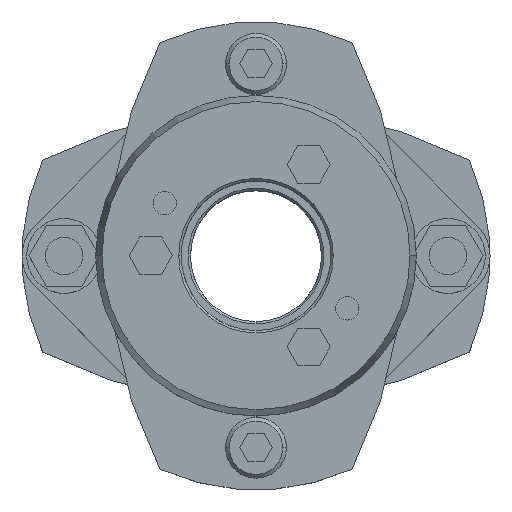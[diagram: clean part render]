
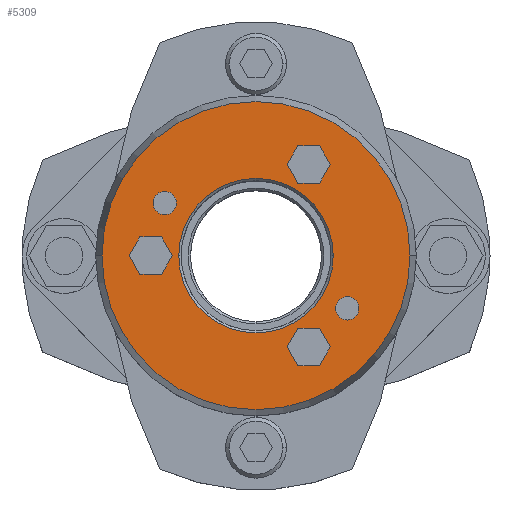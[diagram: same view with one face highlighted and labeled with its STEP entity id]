
A CAD part, top view. The second image highlights one B-rep face of the part: STEP entity #5309.
In plain terms, the highlighted planar face has unit normal (0, 0, 1).
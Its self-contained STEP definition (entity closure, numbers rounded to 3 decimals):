
#857=CARTESIAN_POINT('',(-16.5,0.,42.0));
#858=VERTEX_POINT('',#857);
#874=CARTESIAN_POINT('',(16.5,0.,42.0));
#875=VERTEX_POINT('',#874);
#882=CARTESIAN_POINT('',(0.,0.,42.0));
#883=DIRECTION('',(0.0,0.0,1.0));
#884=DIRECTION('',(-1.0,0.0,0.0));
#885=AXIS2_PLACEMENT_3D('',#882,#883,#884);
#886=CIRCLE('',#885,16.5);
#887=EDGE_CURVE('',#875,#858,#886,.T.);
#1045=CARTESIAN_POINT('',(32.91,0.,42.0));
#1046=VERTEX_POINT('',#1045);
#1053=CARTESIAN_POINT('',(-32.91,0.,42.0));
#1054=VERTEX_POINT('',#1053);
#1055=CARTESIAN_POINT('',(0.,0.,42.0));
#1056=DIRECTION('',(0.0,0.0,-1.0));
#1057=DIRECTION('',(1.0,0.0,0.0));
#1058=AXIS2_PLACEMENT_3D('',#1055,#1056,#1057);
#1059=CIRCLE('',#1058,32.91);
#1060=EDGE_CURVE('',#1046,#1054,#1059,.T.);
#1155=CARTESIAN_POINT('',(16.986,-11.25,42.0));
#1156=VERTEX_POINT('',#1155);
#1172=CARTESIAN_POINT('',(21.986,-11.25,42.0));
#1173=VERTEX_POINT('',#1172);
#1180=CARTESIAN_POINT('',(19.486,-11.25,42.0));
#1181=DIRECTION('',(0.0,0.0,-1.0));
#1182=DIRECTION('',(-1.0,0.0,0.0));
#1183=AXIS2_PLACEMENT_3D('',#1180,#1181,#1182);
#1184=CIRCLE('',#1183,2.5);
#1185=EDGE_CURVE('',#1156,#1173,#1184,.T.);
#1197=CARTESIAN_POINT('',(-21.986,11.25,42.0));
#1198=VERTEX_POINT('',#1197);
#1214=CARTESIAN_POINT('',(-16.986,11.25,42.0));
#1215=VERTEX_POINT('',#1214);
#1222=CARTESIAN_POINT('',(-19.486,11.25,42.0));
#1223=DIRECTION('',(0.0,0.0,-1.0));
#1224=DIRECTION('',(-1.0,0.0,0.0));
#1225=AXIS2_PLACEMENT_3D('',#1222,#1223,#1224);
#1226=CIRCLE('',#1225,2.5);
#1227=EDGE_CURVE('',#1198,#1215,#1226,.T.);
#4336=CARTESIAN_POINT('',(-19.486,11.25,42.0));
#4337=DIRECTION('',(0.0,0.0,-1.0));
#4338=DIRECTION('',(-1.0,0.0,0.0));
#4339=AXIS2_PLACEMENT_3D('',#4336,#4337,#4338);
#4340=CIRCLE('',#4339,2.5);
#4341=EDGE_CURVE('',#1215,#1198,#4340,.T.);
#4370=CARTESIAN_POINT('',(19.486,-11.25,42.0));
#4371=DIRECTION('',(0.0,0.0,-1.0));
#4372=DIRECTION('',(-1.0,0.0,0.0));
#4373=AXIS2_PLACEMENT_3D('',#4370,#4371,#4372);
#4374=CIRCLE('',#4373,2.5);
#4375=EDGE_CURVE('',#1173,#1156,#4374,.T.);
#4413=CARTESIAN_POINT('',(-27.119,0.,42.0));
#4414=VERTEX_POINT('',#4413);
#4421=CARTESIAN_POINT('',(-24.809,-4.,42.0));
#4422=VERTEX_POINT('',#4421);
#4423=CARTESIAN_POINT('',(-24.809,-4.,42.0));
#4424=DIRECTION('',(-0.5,0.866,0.0));
#4425=VECTOR('',#4424,4.619);
#4426=LINE('',#4423,#4425);
#4427=EDGE_CURVE('',#4422,#4414,#4426,.T.);
#4451=CARTESIAN_POINT('',(-24.809,4.,42.0));
#4452=VERTEX_POINT('',#4451);
#4459=CARTESIAN_POINT('',(-27.119,0.,42.0));
#4460=DIRECTION('',(0.5,0.866,0.0));
#4461=VECTOR('',#4460,4.619);
#4462=LINE('',#4459,#4461);
#4463=EDGE_CURVE('',#4414,#4452,#4462,.T.);
#4482=CARTESIAN_POINT('',(-20.191,4.,42.0));
#4483=VERTEX_POINT('',#4482);
#4490=CARTESIAN_POINT('',(-24.809,4.,42.0));
#4491=DIRECTION('',(1.0,0.0,0.0));
#4492=VECTOR('',#4491,4.619);
#4493=LINE('',#4490,#4492);
#4494=EDGE_CURVE('',#4452,#4483,#4493,.T.);
#4513=CARTESIAN_POINT('',(-17.881,0.,42.0));
#4514=VERTEX_POINT('',#4513);
#4521=CARTESIAN_POINT('',(-20.191,4.,42.0));
#4522=DIRECTION('',(0.5,-0.866,0.0));
#4523=VECTOR('',#4522,4.619);
#4524=LINE('',#4521,#4523);
#4525=EDGE_CURVE('',#4483,#4514,#4524,.T.);
#4544=CARTESIAN_POINT('',(-20.191,-4.,42.0));
#4545=VERTEX_POINT('',#4544);
#4552=CARTESIAN_POINT('',(-17.881,0.,42.0));
#4553=DIRECTION('',(-0.5,-0.866,0.0));
#4554=VECTOR('',#4553,4.619);
#4555=LINE('',#4552,#4554);
#4556=EDGE_CURVE('',#4514,#4545,#4555,.T.);
#4574=CARTESIAN_POINT('',(-20.191,-4.,42.0));
#4575=DIRECTION('',(-1.0,0.0,0.0));
#4576=VECTOR('',#4575,4.619);
#4577=LINE('',#4574,#4576);
#4578=EDGE_CURVE('',#4545,#4422,#4577,.T.);
#4613=CARTESIAN_POINT('',(6.631,19.486,42.0));
#4614=VERTEX_POINT('',#4613);
#4621=CARTESIAN_POINT('',(8.941,15.486,42.0));
#4622=VERTEX_POINT('',#4621);
#4623=CARTESIAN_POINT('',(8.941,15.486,42.0));
#4624=DIRECTION('',(-0.5,0.866,0.0));
#4625=VECTOR('',#4624,4.619);
#4626=LINE('',#4623,#4625);
#4627=EDGE_CURVE('',#4622,#4614,#4626,.T.);
#4651=CARTESIAN_POINT('',(8.941,23.486,42.0));
#4652=VERTEX_POINT('',#4651);
#4659=CARTESIAN_POINT('',(6.631,19.486,42.0));
#4660=DIRECTION('',(0.5,0.866,0.0));
#4661=VECTOR('',#4660,4.619);
#4662=LINE('',#4659,#4661);
#4663=EDGE_CURVE('',#4614,#4652,#4662,.T.);
#4682=CARTESIAN_POINT('',(13.559,23.486,42.0));
#4683=VERTEX_POINT('',#4682);
#4690=CARTESIAN_POINT('',(8.941,23.486,42.0));
#4691=DIRECTION('',(1.0,0.0,0.0));
#4692=VECTOR('',#4691,4.619);
#4693=LINE('',#4690,#4692);
#4694=EDGE_CURVE('',#4652,#4683,#4693,.T.);
#4713=CARTESIAN_POINT('',(15.869,19.486,42.0));
#4714=VERTEX_POINT('',#4713);
#4721=CARTESIAN_POINT('',(13.559,23.486,42.0));
#4722=DIRECTION('',(0.5,-0.866,0.0));
#4723=VECTOR('',#4722,4.619);
#4724=LINE('',#4721,#4723);
#4725=EDGE_CURVE('',#4683,#4714,#4724,.T.);
#4744=CARTESIAN_POINT('',(13.559,15.486,42.0));
#4745=VERTEX_POINT('',#4744);
#4752=CARTESIAN_POINT('',(15.869,19.486,42.0));
#4753=DIRECTION('',(-0.5,-0.866,0.0));
#4754=VECTOR('',#4753,4.619);
#4755=LINE('',#4752,#4754);
#4756=EDGE_CURVE('',#4714,#4745,#4755,.T.);
#4774=CARTESIAN_POINT('',(13.559,15.486,42.0));
#4775=DIRECTION('',(-1.0,0.0,0.0));
#4776=VECTOR('',#4775,4.619);
#4777=LINE('',#4774,#4776);
#4778=EDGE_CURVE('',#4745,#4622,#4777,.T.);
#4813=CARTESIAN_POINT('',(6.631,-19.486,42.0));
#4814=VERTEX_POINT('',#4813);
#4821=CARTESIAN_POINT('',(8.941,-23.486,42.0));
#4822=VERTEX_POINT('',#4821);
#4823=CARTESIAN_POINT('',(8.941,-23.486,42.0));
#4824=DIRECTION('',(-0.5,0.866,0.0));
#4825=VECTOR('',#4824,4.619);
#4826=LINE('',#4823,#4825);
#4827=EDGE_CURVE('',#4822,#4814,#4826,.T.);
#4851=CARTESIAN_POINT('',(8.941,-15.486,42.0));
#4852=VERTEX_POINT('',#4851);
#4859=CARTESIAN_POINT('',(6.631,-19.486,42.0));
#4860=DIRECTION('',(0.5,0.866,0.0));
#4861=VECTOR('',#4860,4.619);
#4862=LINE('',#4859,#4861);
#4863=EDGE_CURVE('',#4814,#4852,#4862,.T.);
#4882=CARTESIAN_POINT('',(13.559,-15.486,42.0));
#4883=VERTEX_POINT('',#4882);
#4890=CARTESIAN_POINT('',(8.941,-15.486,42.0));
#4891=DIRECTION('',(1.0,0.0,0.0));
#4892=VECTOR('',#4891,4.619);
#4893=LINE('',#4890,#4892);
#4894=EDGE_CURVE('',#4852,#4883,#4893,.T.);
#4913=CARTESIAN_POINT('',(15.869,-19.486,42.0));
#4914=VERTEX_POINT('',#4913);
#4921=CARTESIAN_POINT('',(13.559,-15.486,42.0));
#4922=DIRECTION('',(0.5,-0.866,0.0));
#4923=VECTOR('',#4922,4.619);
#4924=LINE('',#4921,#4923);
#4925=EDGE_CURVE('',#4883,#4914,#4924,.T.);
#4944=CARTESIAN_POINT('',(13.559,-23.486,42.0));
#4945=VERTEX_POINT('',#4944);
#4952=CARTESIAN_POINT('',(15.869,-19.486,42.0));
#4953=DIRECTION('',(-0.5,-0.866,0.0));
#4954=VECTOR('',#4953,4.619);
#4955=LINE('',#4952,#4954);
#4956=EDGE_CURVE('',#4914,#4945,#4955,.T.);
#4974=CARTESIAN_POINT('',(13.559,-23.486,42.0));
#4975=DIRECTION('',(-1.0,0.0,0.0));
#4976=VECTOR('',#4975,4.619);
#4977=LINE('',#4974,#4976);
#4978=EDGE_CURVE('',#4945,#4822,#4977,.T.);
#5248=CARTESIAN_POINT('',(0.,0.,42.0));
#5249=DIRECTION('',(0.0,0.0,-1.0));
#5250=DIRECTION('',(1.0,0.0,0.0));
#5251=AXIS2_PLACEMENT_3D('',#5248,#5249,#5250);
#5252=CIRCLE('',#5251,32.91);
#5253=EDGE_CURVE('',#1054,#1046,#5252,.T.);
#5258=CARTESIAN_POINT('',(-3.114,0.,42.0));
#5259=DIRECTION('',(0.0,0.0,1.0));
#5260=DIRECTION('',(-1.0,0.0,0.0));
#5261=AXIS2_PLACEMENT_3D('',#5258,#5259,#5260);
#5262=PLANE('',#5261);
#5263=ORIENTED_EDGE('',*,*,#5253,.F.);
#5264=ORIENTED_EDGE('',*,*,#1060,.F.);
#5265=EDGE_LOOP('',(#5263,#5264));
#5266=FACE_OUTER_BOUND('',#5265,.T.);
#5267=ORIENTED_EDGE('',*,*,#1227,.T.);
#5268=ORIENTED_EDGE('',*,*,#4341,.T.);
#5269=EDGE_LOOP('',(#5267,#5268));
#5270=FACE_BOUND('',#5269,.T.);
#5271=ORIENTED_EDGE('',*,*,#1185,.T.);
#5272=ORIENTED_EDGE('',*,*,#4375,.T.);
#5273=EDGE_LOOP('',(#5271,#5272));
#5274=FACE_BOUND('',#5273,.T.);
#5275=ORIENTED_EDGE('',*,*,#4427,.T.);
#5276=ORIENTED_EDGE('',*,*,#4463,.T.);
#5277=ORIENTED_EDGE('',*,*,#4494,.T.);
#5278=ORIENTED_EDGE('',*,*,#4525,.T.);
#5279=ORIENTED_EDGE('',*,*,#4556,.T.);
#5280=ORIENTED_EDGE('',*,*,#4578,.T.);
#5281=EDGE_LOOP('',(#5275,#5276,#5277,#5278,#5279,#5280));
#5282=FACE_BOUND('',#5281,.T.);
#5283=ORIENTED_EDGE('',*,*,#4627,.T.);
#5284=ORIENTED_EDGE('',*,*,#4663,.T.);
#5285=ORIENTED_EDGE('',*,*,#4694,.T.);
#5286=ORIENTED_EDGE('',*,*,#4725,.T.);
#5287=ORIENTED_EDGE('',*,*,#4756,.T.);
#5288=ORIENTED_EDGE('',*,*,#4778,.T.);
#5289=EDGE_LOOP('',(#5283,#5284,#5285,#5286,#5287,#5288));
#5290=FACE_BOUND('',#5289,.T.);
#5291=ORIENTED_EDGE('',*,*,#4827,.T.);
#5292=ORIENTED_EDGE('',*,*,#4863,.T.);
#5293=ORIENTED_EDGE('',*,*,#4894,.T.);
#5294=ORIENTED_EDGE('',*,*,#4925,.T.);
#5295=ORIENTED_EDGE('',*,*,#4956,.T.);
#5296=ORIENTED_EDGE('',*,*,#4978,.T.);
#5297=EDGE_LOOP('',(#5291,#5292,#5293,#5294,#5295,#5296));
#5298=FACE_BOUND('',#5297,.T.);
#5299=ORIENTED_EDGE('',*,*,#887,.F.);
#5300=CARTESIAN_POINT('',(0.,0.,42.0));
#5301=DIRECTION('',(0.0,0.0,1.0));
#5302=DIRECTION('',(-1.0,0.0,0.0));
#5303=AXIS2_PLACEMENT_3D('',#5300,#5301,#5302);
#5304=CIRCLE('',#5303,16.5);
#5305=EDGE_CURVE('',#858,#875,#5304,.T.);
#5306=ORIENTED_EDGE('',*,*,#5305,.F.);
#5307=EDGE_LOOP('',(#5299,#5306));
#5308=FACE_BOUND('',#5307,.T.);
#5309=ADVANCED_FACE('',(#5266,#5270,#5274,#5282,#5290,#5298,#5308),#5262,.T.);
